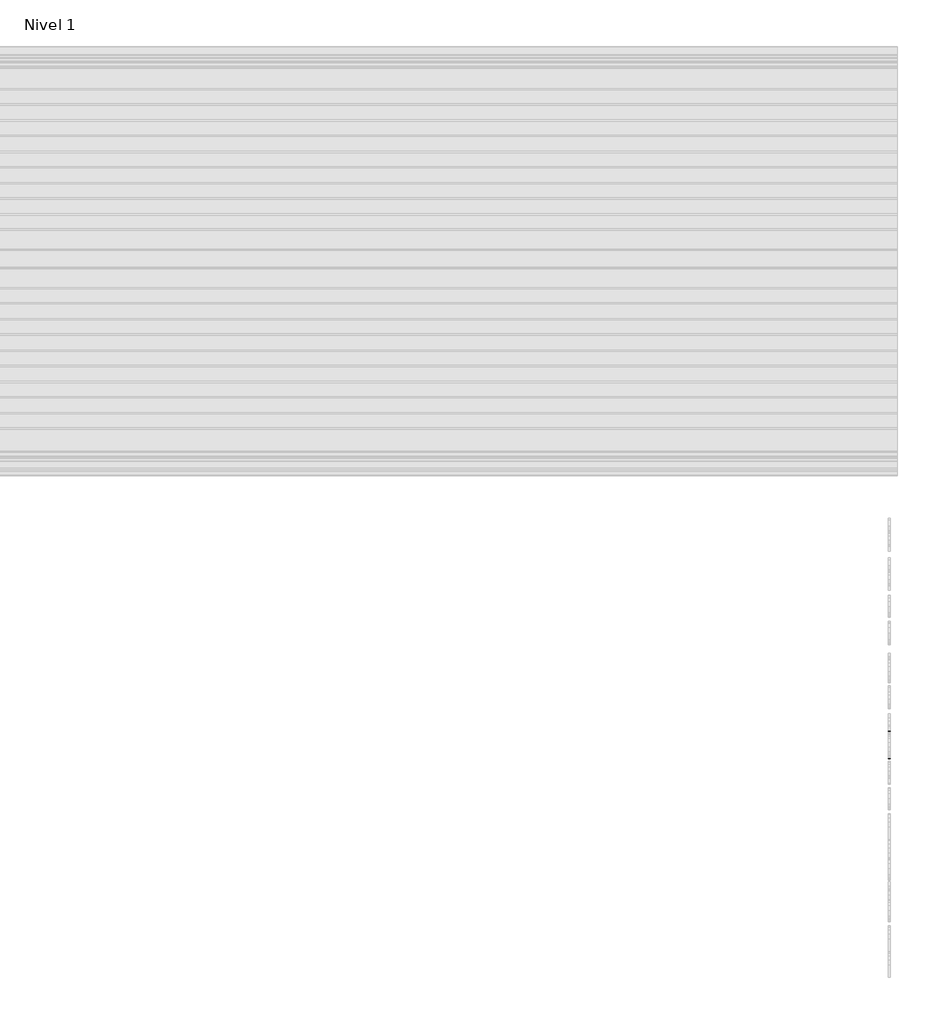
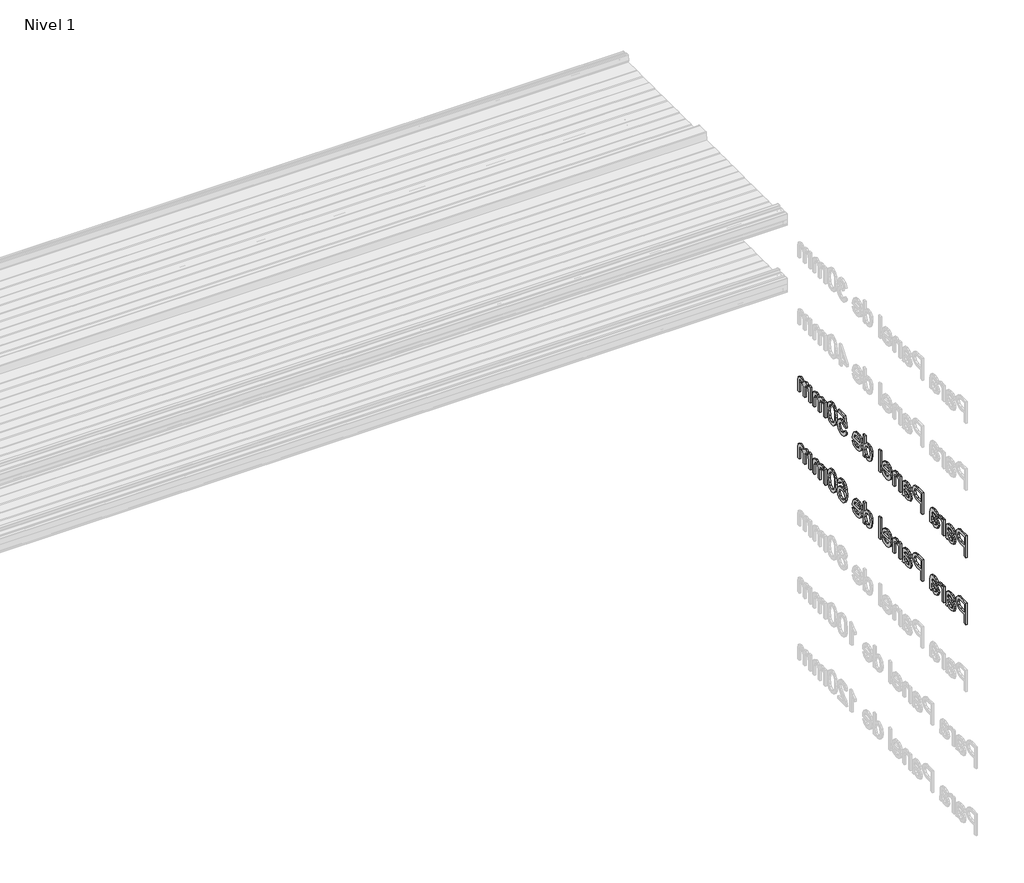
# One storey, part 2 of 3: 2 proxies.
"""IFC4 building model written with IfcOpenShell, lengths in millimetres."""

from ifc_helpers import new_model, si_unit, frame, origin, place, context, project, spatial, polyline, outline, extrude, element, save

model = new_model("IFC4")

# Units and contexts
model_context = context("Model", 3, world=origin())
ifc_project = project(units=[si_unit("LENGTHUNIT", "METRE", prefix="MILLI")], contexts=[model_context])

# Site, building, storey
site = spatial("IfcSite", under=ifc_project)
building = spatial("IfcBuilding", under=site)
storey = spatial("IfcBuildingStorey", under=building, Name="Nivel 1", Elevation=0.0)

# Proxies
placement = place(None, origin())
element("IfcBuildingElementProxy", 1, Name="100mm Arial", ObjectType="100mm Arial", at=placement, inside=storey, context=model_context, shape_type="SweptSolid", body=[
    extrude(outline(polyline([(14155.5279909, -567.141573), (14155.5279909, -486.7765249), (14185.3117173, -486.7765249), (14197.3193856, -487.5417195), (14207.0805212, -491.2990209), (14213.4080915, -499.0686886), (14215.801777, -510.026667), (14214.1855488, -519.4984021), (14209.3368641, -527.3906972), (14200.2697992, -532.7176285), (14185.9984303, -534.4932722), (14165.573622, -534.4932722), (14165.573622, -567.141573), (14155.5279909, -567.141573)]), holes=[polyline([(14165.573622, -524.4476412), (14186.5870415, -524.4476412), (14201.3808028, -520.7590111), (14205.756146, -510.3798337), (14203.176067, -502.0607955), (14196.3972281, -497.508869), (14186.351597, -496.8221559), (14165.573622, -496.8221559), (14165.573622, -524.4476412)])]), frame((9557.0230098, 0.0, 0.0), z_axis=(1.0, 0.0, 0.0), x_axis=(0.0, 1.0, 0.0)), (0.0, 0.0, 1.0), 5.0),
    extrude(outline(polyline([(14266.0299321, -559.6073498), (14256.2884169, -566.4156192), (14245.5266422, -568.3972769), (14230.9388949, -563.6295263), (14225.847408, -551.4452746), (14227.7702046, -543.4990235), (14232.8224507, -537.7306338), (14239.8563544, -534.4344111), (14248.5481797, -532.9236424), (14265.971071, -529.4704567), (14266.0299321, -527.2337342), (14263.2634595, -519.8172332), (14252.1583283, -516.913418), (14241.9949751, -518.8460247), (14237.1487429, -525.7033451), (14227.1031119, -524.4476412), (14231.4490246, -514.6374547), (14240.199711, -508.8886854), (14253.453273, -506.8677869), (14265.6277145, -508.6532409), (14272.5046552, -513.1364961), (14275.5850538, -519.9545758), (14276.0755631, -528.7445029), (14276.0755631, -541.2426806), (14276.5856928, -558.6950024), (14278.5869709, -567.141573), (14268.5413399, -567.141573), (14266.0299321, -559.6073498)]), holes=[polyline([(14266.0299321, -539.5160877), (14249.8235039, -542.5964863), (14241.1807296, -544.2249773), (14237.2664652, -546.8737276), (14235.8930391, -550.7389411), (14238.885146, -556.1737845), (14247.6652629, -558.3516459), (14257.8286162, -555.9481502), (14264.3818208, -550.1307096), (14265.971071, -542.3610418), (14266.0299321, -539.5160877)])]), frame((9557.0230098, 0.0, 0.0), z_axis=(1.0, 0.0, 0.0), x_axis=(0.0, 1.0, 0.0)), (0.0, 0.0, 1.0), 5.0),
    extrude(outline(polyline([(14289.8883058, -567.141573), (14289.8883058, -508.1234908), (14298.6782329, -508.1234908), (14298.6782329, -516.8545568), (14304.9175115, -508.8102039), (14311.1960309, -506.8677869), (14321.2809027, -509.9678059), (14317.9258189, -518.9735571), (14310.8624846, -516.913418), (14305.1823866, -518.8950756), (14301.5624277, -524.3887801), (14299.9339368, -536.1217632), (14299.9339368, -567.141573), (14289.8883058, -567.141573)])), frame((9557.0230098, 0.0, 0.0), z_axis=(1.0, 0.0, 0.0), x_axis=(0.0, 1.0, 0.0)), (0.0, 0.0, 1.0), 5.0),
    extrude(outline(polyline([(14365.2305384, -559.6073498), (14355.4890231, -566.4156192), (14344.7272485, -568.3972769), (14330.1395011, -563.6295263), (14325.0480143, -551.4452746), (14326.9708109, -543.4990235), (14332.023057, -537.7306338), (14339.0569607, -534.4344111), (14347.748786, -532.9236424), (14365.1716773, -529.4704567), (14365.2305384, -527.2337342), (14362.4640658, -519.8172332), (14351.3589346, -516.913418), (14341.1955814, -518.8460247), (14336.3493492, -525.7033451), (14326.3037182, -524.4476412), (14330.6496308, -514.6374547), (14339.4003172, -508.8886854), (14352.6538792, -506.8677869), (14364.8283207, -508.6532409), (14371.7052615, -513.1364961), (14374.7856601, -519.9545758), (14375.2761694, -528.7445029), (14375.2761694, -541.2426806), (14375.7862991, -558.6950024), (14377.7875772, -567.141573), (14367.7419461, -567.141573), (14365.2305384, -559.6073498)]), holes=[polyline([(14365.2305384, -539.5160877), (14349.0241102, -542.5964863), (14340.3813359, -544.2249773), (14336.4670715, -546.8737276), (14335.0936453, -550.7389411), (14338.0857522, -556.1737845), (14346.8658692, -558.3516459), (14357.0292224, -555.9481502), (14363.582427, -550.1307096), (14365.1716773, -542.3610418), (14365.2305384, -539.5160877)])]), frame((9557.0230098, 0.0, 0.0), z_axis=(1.0, 0.0, 0.0), x_axis=(0.0, 1.0, 0.0)), (0.0, 0.0, 1.0), 5.0),
    extrude(outline(polyline([(14421.7372128, -567.141573), (14421.7372128, -486.7765249), (14451.5209392, -486.7765249), (14463.5286075, -487.5417195), (14473.2897431, -491.2990209), (14479.6173134, -499.0686886), (14482.0109989, -510.026667), (14480.3947707, -519.4984021), (14475.546086, -527.3906972), (14466.4790211, -532.7176285), (14452.2076522, -534.4932722), (14431.7828439, -534.4932722), (14431.7828439, -567.141573), (14421.7372128, -567.141573)]), holes=[polyline([(14431.7828439, -524.4476412), (14452.7962634, -524.4476412), (14467.5900247, -520.7590111), (14471.9653679, -510.3798337), (14469.3852889, -502.0607955), (14462.60645, -497.508869), (14452.5608189, -496.8221559), (14431.7828439, -496.8221559), (14431.7828439, -524.4476412)])]), frame((9557.0230098, 0.0, 0.0), z_axis=(1.0, 0.0, 0.0), x_axis=(0.0, 1.0, 0.0)), (0.0, 0.0, 1.0), 5.0),
    extrude(outline(polyline([(14532.239154, -559.6073498), (14522.4976388, -566.4156192), (14511.7358641, -568.3972769), (14497.1481168, -563.6295263), (14492.0566299, -551.4452746), (14493.9794265, -543.4990235), (14499.0316726, -537.7306338), (14506.0655763, -534.4344111), (14514.7574016, -532.9236424), (14532.1802929, -529.4704567), (14532.239154, -527.2337342), (14529.4726814, -519.8172332), (14518.3675502, -516.913418), (14508.204197, -518.8460247), (14503.3579648, -525.7033451), (14493.3123338, -524.4476412), (14497.6582465, -514.6374547), (14506.4089329, -508.8886854), (14519.6624949, -506.8677869), (14531.8369364, -508.6532409), (14538.7138771, -513.1364961), (14541.7942757, -519.9545758), (14542.284785, -528.7445029), (14542.284785, -541.2426806), (14542.7949147, -558.6950024), (14544.7961928, -567.141573), (14534.7505618, -567.141573), (14532.239154, -559.6073498)]), holes=[polyline([(14532.239154, -539.5160877), (14516.0327258, -542.5964863), (14507.3899515, -544.2249773), (14503.4756871, -546.8737276), (14502.102261, -550.7389411), (14505.0943679, -556.1737845), (14513.8744848, -558.3516459), (14524.0378381, -555.9481502), (14530.5910427, -550.1307096), (14532.1802929, -542.3610418), (14532.239154, -539.5160877)])]), frame((9557.0230098, 0.0, 0.0), z_axis=(1.0, 0.0, 0.0), x_axis=(0.0, 1.0, 0.0)), (0.0, 0.0, 1.0), 5.0),
    extrude(outline(polyline([(14556.0975277, -567.141573), (14556.0975277, -508.1234908), (14566.1431587, -508.1234908), (14566.1431587, -516.3640475), (14573.8245347, -509.2418521), (14584.3116241, -506.8677869), (14593.7980745, -508.7807733), (14600.2727976, -513.8035888), (14603.2845249, -521.1906593), (14603.814275, -530.902744), (14603.814275, -567.141573), (14593.768644, -567.141573), (14593.768644, -532.2565497), (14592.611042, -523.3685207), (14588.5201942, -518.6694413), (14581.623633, -516.913418), (14570.7245158, -520.8571129), (14567.288498, -526.5715466), (14566.1431587, -535.8274576), (14566.1431587, -567.141573), (14556.0975277, -567.141573)])), frame((9557.0230098, 0.0, 0.0), z_axis=(1.0, 0.0, 0.0), x_axis=(0.0, 1.0, 0.0)), (0.0, 0.0, 1.0), 5.0),
    extrude(outline(polyline([(14658.9475233, -549.5617188), (14668.7969506, -550.8174226), (14659.5851855, -563.7864892), (14642.4271692, -568.3972769), (14630.6402301, -566.4082616), (14621.5707126, -560.4412156), (14615.7876077, -550.8836414), (14613.859906, -538.1230413), (14615.807228, -524.9332455), (14621.6491941, -515.0691029), (14630.5960842, -508.9181159), (14641.8581784, -506.8677869), (14652.7695584, -508.9132108), (14661.4883616, -515.0494825), (14667.2052478, -524.8940047), (14669.1108766, -538.0641801), (14669.0520155, -540.7717916), (14623.905537, -540.7717916), (14629.6837369, -553.8193397), (14642.6233729, -558.3516459), (14652.4728002, -556.252266), (14658.9475233, -549.5617188)]), holes=[polyline([(14623.905537, -530.7261606), (14659.0652456, -530.7261606), (14655.0430691, -521.6223075), (14641.8189376, -516.913418), (14629.4482924, -520.6707194), (14623.905537, -530.7261606)])]), frame((9557.0230098, 0.0, 0.0), z_axis=(1.0, 0.0, 0.0), x_axis=(0.0, 1.0, 0.0)), (0.0, 0.0, 1.0), 5.0),
    extrude(outline(polyline([(9562.0230098, 14689.2021386), (9562.0230098, 14679.1565076), (9557.0230098, 14679.1565076), (9557.0230098, 14689.2021386), (9562.0230098, 14689.2021386)])), frame((0.0, 0.0, -567.141573), z_axis=(0.0, 0.0, 1.0), x_axis=(1.0, 0.0, 0.0)), (0.0, 0.0, 1.0), 80.3650481),
    extrude(outline(polyline([(14772.0785945, -567.141573), (14772.0785945, -557.6649328), (14765.4321931, -565.7141909), (14756.2449534, -568.3972769), (14743.8056369, -564.512443), (14735.0157097, -553.6721869), (14731.8960704, -537.691393), (14734.7704551, -521.700789), (14743.3837989, -510.6937597), (14756.2057127, -506.8677869), (14765.4665288, -509.604829), (14772.0785945, -516.7172142), (14772.0785945, -486.7765249), (14782.1242255, -486.7765249), (14782.1242255, -567.141573), (14772.0785945, -567.141573)]), holes=[polyline([(14741.9417014, -537.6521523), (14746.4740076, -553.201298), (14757.1671109, -558.3516459), (14767.7326819, -553.4367424), (14772.0785945, -538.4173468), (14767.6542004, -522.1128168), (14756.7550831, -516.913418), (14746.179702, -521.9068029), (14741.9417014, -537.6521523)])]), frame((9557.0230098, 0.0, 0.0), z_axis=(1.0, 0.0, 0.0), x_axis=(0.0, 1.0, 0.0)), (0.0, 0.0, 1.0), 5.0),
    extrude(outline(polyline([(14838.5131777, -549.5617188), (14848.362605, -550.8174226), (14839.1508398, -563.7864892), (14821.9928236, -568.3972769), (14810.2058845, -566.4082616), (14801.136367, -560.4412156), (14795.353262, -550.8836414), (14793.4255604, -538.1230413), (14795.3728824, -524.9332455), (14801.2148485, -515.0691029), (14810.1617386, -508.9181159), (14821.4238328, -506.8677869), (14832.3352128, -508.9132108), (14841.054016, -515.0494825), (14846.7709022, -524.8940047), (14848.676531, -538.0641801), (14848.6176699, -540.7717916), (14803.4711914, -540.7717916), (14809.2493913, -553.8193397), (14822.1890273, -558.3516459), (14832.0384546, -556.252266), (14838.5131777, -549.5617188)]), holes=[polyline([(14803.4711914, -530.7261606), (14838.6309, -530.7261606), (14834.6087235, -521.6223075), (14821.384592, -516.913418), (14809.0139468, -520.6707194), (14803.4711914, -530.7261606)])]), frame((9557.0230098, 0.0, 0.0), z_axis=(1.0, 0.0, 0.0), x_axis=(0.0, 1.0, 0.0)), (0.0, 0.0, 1.0), 5.0),
    extrude(outline(polyline([(14887.6033512, -545.7946071), (14897.6489822, -544.5389032), (14902.7110384, -554.88865), (14913.207938, -558.3516459), (14925.8042175, -553.5348443), (14930.297283, -540.7521712), (14926.0887129, -528.8229844), (14913.364901, -524.4476412), (14904.5455433, -526.1938544), (14898.9046861, -530.7261606), (14888.859055, -529.4704567), (14897.6489822, -488.0322288), (14936.5758024, -488.0322288), (14936.5758024, -498.0778598), (14905.7718166, -498.0778598), (14901.4749549, -520.2096406), (14916.1706144, -514.4020102), (14925.5565103, -516.2021794), (14933.348251, -521.6026871), (14938.5942482, -529.8334336), (14940.342914, -540.1243193), (14938.768379, -550.1699503), (14934.0447742, -558.7636737), (14924.9997822, -565.9888761), (14913.1686973, -568.3972769), (14903.3021022, -566.84972), (14895.4416902, -562.2070492), (14890.0534452, -555.0088248), (14887.6033512, -545.7946071)])), frame((9557.0230098, 0.0, 0.0), z_axis=(1.0, 0.0, 0.0), x_axis=(0.0, 1.0, 0.0)), (0.0, 0.0, 1.0), 5.0),
    extrude(outline(polyline([(14949.1328411, -527.6065213), (14952.0857073, -504.4839116), (14960.856014, -491.1518681), (14975.5026225, -486.7765249), (14987.2356056, -489.3664142), (14995.3388197, -496.8319661), (15000.0477093, -508.7219122), (15001.872404, -527.6065213), (14998.9489684, -550.6310291), (14990.2080922, -563.9925032), (14975.5026225, -568.3972769), (14965.0645841, -566.4842905), (14957.1379533, -560.7453314), (14951.1341192, -547.153318), (14949.1328411, -527.6065213)]), holes=[polyline([(14959.1784721, -527.5869009), (14960.3556945, -543.3886589), (14963.8873617, -552.5342053), (14975.5026225, -558.3516459), (14987.1178834, -552.5145849), (14990.6495506, -543.3641334), (14991.8267729, -527.5869009), (14990.6887913, -512.1407622), (14987.2748464, -502.924092), (14982.0263966, -498.3476399), (14975.3849003, -496.8221559), (14964.0443247, -502.1981381), (14960.3949353, -511.9887043), (14959.1784721, -527.5869009)])]), frame((9557.0230098, 0.0, 0.0), z_axis=(1.0, 0.0, 0.0), x_axis=(0.0, 1.0, 0.0)), (0.0, 0.0, 1.0), 5.0),
    extrude(outline(polyline([(15013.1737388, -567.141573), (15013.1737388, -508.1234908), (15023.2193699, -508.1234908), (15023.2193699, -517.8355755), (15030.1257412, -509.8795142), (15039.9555481, -506.8677869), (15050.0207995, -509.9383753), (15055.5537447, -518.5419089), (15063.3920837, -509.7863174), (15073.290562, -506.8677869), (15086.4264017, -511.7238293), (15091.0273792, -526.6843637), (15091.0273792, -567.141573), (15080.9817482, -567.141573), (15080.9817482, -531.0008458), (15080.0497805, -522.6131363), (15076.6750763, -518.4830478), (15070.9361172, -516.913418), (15061.0572593, -520.9355944), (15057.1233745, -533.8261795), (15057.1233745, -567.141573), (15047.0777435, -567.141573), (15047.0777435, -529.8824846), (15044.7527293, -520.1507795), (15037.1302144, -516.913418), (15029.694093, -519.071659), (15024.749759, -525.3894191), (15023.2193699, -537.3774671), (15023.2193699, -567.141573), (15013.1737388, -567.141573)])), frame((9557.0230098, 0.0, 0.0), z_axis=(1.0, 0.0, 0.0), x_axis=(0.0, 1.0, 0.0)), (0.0, 0.0, 1.0), 5.0),
    extrude(outline(polyline([(15106.0958257, -567.141573), (15106.0958257, -508.1234908), (15116.1414568, -508.1234908), (15116.1414568, -517.8355755), (15123.0478281, -509.8795142), (15132.877635, -506.8677869), (15142.9428864, -509.9383753), (15148.4758316, -518.5419089), (15156.3141706, -509.7863174), (15166.2126488, -506.8677869), (15179.3484886, -511.7238293), (15183.9494661, -526.6843637), (15183.9494661, -567.141573), (15173.9038351, -567.141573), (15173.9038351, -531.0008458), (15172.9718674, -522.6131363), (15169.5971632, -518.4830478), (15163.8582041, -516.913418), (15153.9793462, -520.9355944), (15150.0454614, -533.8261795), (15150.0454614, -567.141573), (15139.9998304, -567.141573), (15139.9998304, -529.8824846), (15137.6748162, -520.1507795), (15130.0523013, -516.913418), (15122.6161799, -519.071659), (15117.6718458, -525.3894191), (15116.1414568, -537.3774671), (15116.1414568, -567.141573), (15106.0958257, -567.141573)])), frame((9557.0230098, 0.0, 0.0), z_axis=(1.0, 0.0, 0.0), x_axis=(0.0, 1.0, 0.0)), (0.0, 0.0, 1.0), 5.0),
])
element("IfcBuildingElementProxy", 2, Name="100mm Arial", ObjectType="100mm Arial", at=placement, inside=storey, context=model_context, shape_type="SweptSolid", body=[
    extrude(outline(polyline([(14155.5279909, -817.141573), (14155.5279909, -736.7765249), (14185.3117173, -736.7765249), (14197.3193856, -737.5417195), (14207.0805212, -741.2990209), (14213.4080915, -749.0686886), (14215.801777, -760.026667), (14214.1855488, -769.4984021), (14209.3368641, -777.3906972), (14200.2697992, -782.7176285), (14185.9984303, -784.4932722), (14165.573622, -784.4932722), (14165.573622, -817.141573), (14155.5279909, -817.141573)]), holes=[polyline([(14165.573622, -774.4476412), (14186.5870415, -774.4476412), (14201.3808028, -770.7590111), (14205.756146, -760.3798337), (14203.176067, -752.0607955), (14196.3972281, -747.508869), (14186.351597, -746.8221559), (14165.573622, -746.8221559), (14165.573622, -774.4476412)])]), frame((9557.0230098, 0.0, 0.0), z_axis=(1.0, 0.0, 0.0), x_axis=(0.0, 1.0, 0.0)), (0.0, 0.0, 1.0), 5.0),
    extrude(outline(polyline([(14266.0299321, -809.6073498), (14256.2884169, -816.4156192), (14245.5266422, -818.3972769), (14230.9388949, -813.6295263), (14225.847408, -801.4452746), (14227.7702046, -793.4990235), (14232.8224507, -787.7306338), (14239.8563544, -784.4344111), (14248.5481797, -782.9236424), (14265.971071, -779.4704567), (14266.0299321, -777.2337342), (14263.2634595, -769.8172332), (14252.1583283, -766.913418), (14241.9949751, -768.8460247), (14237.1487429, -775.7033451), (14227.1031119, -774.4476412), (14231.4490246, -764.6374547), (14240.199711, -758.8886854), (14253.453273, -756.8677869), (14265.6277145, -758.6532409), (14272.5046552, -763.1364961), (14275.5850538, -769.9545758), (14276.0755631, -778.7445029), (14276.0755631, -791.2426806), (14276.5856928, -808.6950024), (14278.5869709, -817.141573), (14268.5413399, -817.141573), (14266.0299321, -809.6073498)]), holes=[polyline([(14266.0299321, -789.5160877), (14249.8235039, -792.5964863), (14241.1807296, -794.2249773), (14237.2664652, -796.8737276), (14235.8930391, -800.7389411), (14238.885146, -806.1737845), (14247.6652629, -808.3516459), (14257.8286162, -805.9481502), (14264.3818208, -800.1307096), (14265.971071, -792.3610418), (14266.0299321, -789.5160877)])]), frame((9557.0230098, 0.0, 0.0), z_axis=(1.0, 0.0, 0.0), x_axis=(0.0, 1.0, 0.0)), (0.0, 0.0, 1.0), 5.0),
    extrude(outline(polyline([(14289.8883058, -817.141573), (14289.8883058, -758.1234908), (14298.6782329, -758.1234908), (14298.6782329, -766.8545568), (14304.9175115, -758.8102039), (14311.1960309, -756.8677869), (14321.2809027, -759.9678059), (14317.9258189, -768.9735571), (14310.8624846, -766.913418), (14305.1823866, -768.8950756), (14301.5624277, -774.3887801), (14299.9339368, -786.1217632), (14299.9339368, -817.141573), (14289.8883058, -817.141573)])), frame((9557.0230098, 0.0, 0.0), z_axis=(1.0, 0.0, 0.0), x_axis=(0.0, 1.0, 0.0)), (0.0, 0.0, 1.0), 5.0),
    extrude(outline(polyline([(14365.2305384, -809.6073498), (14355.4890231, -816.4156192), (14344.7272485, -818.3972769), (14330.1395011, -813.6295263), (14325.0480143, -801.4452746), (14326.9708109, -793.4990235), (14332.023057, -787.7306338), (14339.0569607, -784.4344111), (14347.748786, -782.9236424), (14365.1716773, -779.4704567), (14365.2305384, -777.2337342), (14362.4640658, -769.8172332), (14351.3589346, -766.913418), (14341.1955814, -768.8460247), (14336.3493492, -775.7033451), (14326.3037182, -774.4476412), (14330.6496308, -764.6374547), (14339.4003172, -758.8886854), (14352.6538792, -756.8677869), (14364.8283207, -758.6532409), (14371.7052615, -763.1364961), (14374.7856601, -769.9545758), (14375.2761694, -778.7445029), (14375.2761694, -791.2426806), (14375.7862991, -808.6950024), (14377.7875772, -817.141573), (14367.7419461, -817.141573), (14365.2305384, -809.6073498)]), holes=[polyline([(14365.2305384, -789.5160877), (14349.0241102, -792.5964863), (14340.3813359, -794.2249773), (14336.4670715, -796.8737276), (14335.0936453, -800.7389411), (14338.0857522, -806.1737845), (14346.8658692, -808.3516459), (14357.0292224, -805.9481502), (14363.582427, -800.1307096), (14365.1716773, -792.3610418), (14365.2305384, -789.5160877)])]), frame((9557.0230098, 0.0, 0.0), z_axis=(1.0, 0.0, 0.0), x_axis=(0.0, 1.0, 0.0)), (0.0, 0.0, 1.0), 5.0),
    extrude(outline(polyline([(14421.7372128, -817.141573), (14421.7372128, -736.7765249), (14451.5209392, -736.7765249), (14463.5286075, -737.5417195), (14473.2897431, -741.2990209), (14479.6173134, -749.0686886), (14482.0109989, -760.026667), (14480.3947707, -769.4984021), (14475.546086, -777.3906972), (14466.4790211, -782.7176285), (14452.2076522, -784.4932722), (14431.7828439, -784.4932722), (14431.7828439, -817.141573), (14421.7372128, -817.141573)]), holes=[polyline([(14431.7828439, -774.4476412), (14452.7962634, -774.4476412), (14467.5900247, -770.7590111), (14471.9653679, -760.3798337), (14469.3852889, -752.0607955), (14462.60645, -747.508869), (14452.5608189, -746.8221559), (14431.7828439, -746.8221559), (14431.7828439, -774.4476412)])]), frame((9557.0230098, 0.0, 0.0), z_axis=(1.0, 0.0, 0.0), x_axis=(0.0, 1.0, 0.0)), (0.0, 0.0, 1.0), 5.0),
    extrude(outline(polyline([(14532.239154, -809.6073498), (14522.4976388, -816.4156192), (14511.7358641, -818.3972769), (14497.1481168, -813.6295263), (14492.0566299, -801.4452746), (14493.9794265, -793.4990235), (14499.0316726, -787.7306338), (14506.0655763, -784.4344111), (14514.7574016, -782.9236424), (14532.1802929, -779.4704567), (14532.239154, -777.2337342), (14529.4726814, -769.8172332), (14518.3675502, -766.913418), (14508.204197, -768.8460247), (14503.3579648, -775.7033451), (14493.3123338, -774.4476412), (14497.6582465, -764.6374547), (14506.4089329, -758.8886854), (14519.6624949, -756.8677869), (14531.8369364, -758.6532409), (14538.7138771, -763.1364961), (14541.7942757, -769.9545758), (14542.284785, -778.7445029), (14542.284785, -791.2426806), (14542.7949147, -808.6950024), (14544.7961928, -817.141573), (14534.7505618, -817.141573), (14532.239154, -809.6073498)]), holes=[polyline([(14532.239154, -789.5160877), (14516.0327258, -792.5964863), (14507.3899515, -794.2249773), (14503.4756871, -796.8737276), (14502.102261, -800.7389411), (14505.0943679, -806.1737845), (14513.8744848, -808.3516459), (14524.0378381, -805.9481502), (14530.5910427, -800.1307096), (14532.1802929, -792.3610418), (14532.239154, -789.5160877)])]), frame((9557.0230098, 0.0, 0.0), z_axis=(1.0, 0.0, 0.0), x_axis=(0.0, 1.0, 0.0)), (0.0, 0.0, 1.0), 5.0),
    extrude(outline(polyline([(14556.0975277, -817.141573), (14556.0975277, -758.1234908), (14566.1431587, -758.1234908), (14566.1431587, -766.3640475), (14573.8245347, -759.2418521), (14584.3116241, -756.8677869), (14593.7980745, -758.7807733), (14600.2727976, -763.8035888), (14603.2845249, -771.1906593), (14603.814275, -780.902744), (14603.814275, -817.141573), (14593.768644, -817.141573), (14593.768644, -782.2565497), (14592.611042, -773.3685207), (14588.5201942, -768.6694413), (14581.623633, -766.913418), (14570.7245158, -770.8571129), (14567.288498, -776.5715466), (14566.1431587, -785.8274576), (14566.1431587, -817.141573), (14556.0975277, -817.141573)])), frame((9557.0230098, 0.0, 0.0), z_axis=(1.0, 0.0, 0.0), x_axis=(0.0, 1.0, 0.0)), (0.0, 0.0, 1.0), 5.0),
    extrude(outline(polyline([(14658.9475233, -799.5617188), (14668.7969506, -800.8174226), (14659.5851855, -813.7864892), (14642.4271692, -818.3972769), (14630.6402301, -816.4082616), (14621.5707126, -810.4412156), (14615.7876077, -800.8836414), (14613.859906, -788.1230413), (14615.807228, -774.9332455), (14621.6491941, -765.0691029), (14630.5960842, -758.9181159), (14641.8581784, -756.8677869), (14652.7695584, -758.9132108), (14661.4883616, -765.0494825), (14667.2052478, -774.8940047), (14669.1108766, -788.0641801), (14669.0520155, -790.7717916), (14623.905537, -790.7717916), (14629.6837369, -803.8193397), (14642.6233729, -808.3516459), (14652.4728002, -806.252266), (14658.9475233, -799.5617188)]), holes=[polyline([(14623.905537, -780.7261606), (14659.0652456, -780.7261606), (14655.0430691, -771.6223075), (14641.8189376, -766.913418), (14629.4482924, -770.6707194), (14623.905537, -780.7261606)])]), frame((9557.0230098, 0.0, 0.0), z_axis=(1.0, 0.0, 0.0), x_axis=(0.0, 1.0, 0.0)), (0.0, 0.0, 1.0), 5.0),
    extrude(outline(polyline([(9562.0230098, 14689.2021386), (9562.0230098, 14679.1565076), (9557.0230098, 14679.1565076), (9557.0230098, 14689.2021386), (9562.0230098, 14689.2021386)])), frame((0.0, 0.0, -817.141573), z_axis=(0.0, 0.0, 1.0), x_axis=(1.0, 0.0, 0.0)), (0.0, 0.0, 1.0), 80.3650481),
    extrude(outline(polyline([(14772.0785945, -817.141573), (14772.0785945, -807.6649328), (14765.4321931, -815.7141909), (14756.2449534, -818.3972769), (14743.8056369, -814.512443), (14735.0157097, -803.6721869), (14731.8960704, -787.691393), (14734.7704551, -771.700789), (14743.3837989, -760.6937597), (14756.2057127, -756.8677869), (14765.4665288, -759.604829), (14772.0785945, -766.7172142), (14772.0785945, -736.7765249), (14782.1242255, -736.7765249), (14782.1242255, -817.141573), (14772.0785945, -817.141573)]), holes=[polyline([(14741.9417014, -787.6521523), (14746.4740076, -803.201298), (14757.1671109, -808.3516459), (14767.7326819, -803.4367424), (14772.0785945, -788.4173468), (14767.6542004, -772.1128168), (14756.7550831, -766.913418), (14746.179702, -771.9068029), (14741.9417014, -787.6521523)])]), frame((9557.0230098, 0.0, 0.0), z_axis=(1.0, 0.0, 0.0), x_axis=(0.0, 1.0, 0.0)), (0.0, 0.0, 1.0), 5.0),
    extrude(outline(polyline([(14838.5131777, -799.5617188), (14848.362605, -800.8174226), (14839.1508398, -813.7864892), (14821.9928236, -818.3972769), (14810.2058845, -816.4082616), (14801.136367, -810.4412156), (14795.353262, -800.8836414), (14793.4255604, -788.1230413), (14795.3728824, -774.9332455), (14801.2148485, -765.0691029), (14810.1617386, -758.9181159), (14821.4238328, -756.8677869), (14832.3352128, -758.9132108), (14841.054016, -765.0494825), (14846.7709022, -774.8940047), (14848.676531, -788.0641801), (14848.6176699, -790.7717916), (14803.4711914, -790.7717916), (14809.2493913, -803.8193397), (14822.1890273, -808.3516459), (14832.0384546, -806.252266), (14838.5131777, -799.5617188)]), holes=[polyline([(14803.4711914, -780.7261606), (14838.6309, -780.7261606), (14834.6087235, -771.6223075), (14821.384592, -766.913418), (14809.0139468, -770.6707194), (14803.4711914, -780.7261606)])]), frame((9557.0230098, 0.0, 0.0), z_axis=(1.0, 0.0, 0.0), x_axis=(0.0, 1.0, 0.0)), (0.0, 0.0, 1.0), 5.0),
    extrude(outline(polyline([(14939.0872101, -758.1234908), (14929.0415791, -759.3791947), (14925.2352267, -751.0012954), (14915.1699753, -746.8221559), (14906.105363, -749.2550822), (14899.2480426, -758.3883659), (14896.3932783, -776.2919563), (14905.2518767, -768.2770339), (14916.2294755, -765.6577141), (14925.5099119, -767.4480731), (14933.2992001, -772.8191503), (14938.5819855, -781.0253713), (14940.342914, -791.3211621), (14937.0270709, -805.1829556), (14927.9035975, -814.9931422), (14914.7383271, -818.3972769), (14903.3413429, -816.140934), (14894.2644678, -809.3719053), (14888.3268524, -797.4230981), (14886.3476473, -779.6274197), (14888.5451291, -759.6195443), (14895.1375744, -745.9392391), (14904.1384206, -739.0672035), (14915.7978273, -736.7765249), (14924.6122799, -738.1940969), (14931.6707091, -742.4468127), (14939.0872101, -758.1234908)]), holes=[polyline([(14896.3932783, -791.1641991), (14898.7182925, -799.8658345), (14904.89871, -806.1835947), (14913.9535122, -808.3516459), (14925.7944074, -803.8585805), (14930.297283, -791.6547084), (14925.8532685, -779.9707762), (14913.5414844, -775.7033451), (14901.3866632, -779.9707762), (14896.3932783, -791.1641991)])]), frame((9557.0230098, 0.0, 0.0), z_axis=(1.0, 0.0, 0.0), x_axis=(0.0, 1.0, 0.0)), (0.0, 0.0, 1.0), 5.0),
    extrude(outline(polyline([(14949.1328411, -777.6065213), (14952.0857073, -754.4839116), (14960.856014, -741.1518681), (14975.5026225, -736.7765249), (14987.2356056, -739.3664142), (14995.3388197, -746.8319661), (15000.0477093, -758.7219122), (15001.872404, -777.6065213), (14998.9489684, -800.6310291), (14990.2080922, -813.9925032), (14975.5026225, -818.3972769), (14965.0645841, -816.4842905), (14957.1379533, -810.7453314), (14951.1341192, -797.153318), (14949.1328411, -777.6065213)]), holes=[polyline([(14959.1784721, -777.5869009), (14960.3556945, -793.3886589), (14963.8873617, -802.5342053), (14975.5026225, -808.3516459), (14987.1178834, -802.5145849), (14990.6495506, -793.3641334), (14991.8267729, -777.5869009), (14990.6887913, -762.1407622), (14987.2748464, -752.924092), (14982.0263966, -748.3476399), (14975.3849003, -746.8221559), (14964.0443247, -752.1981381), (14960.3949353, -761.9887043), (14959.1784721, -777.5869009)])]), frame((9557.0230098, 0.0, 0.0), z_axis=(1.0, 0.0, 0.0), x_axis=(0.0, 1.0, 0.0)), (0.0, 0.0, 1.0), 5.0),
    extrude(outline(polyline([(15013.1737388, -817.141573), (15013.1737388, -758.1234908), (15023.2193699, -758.1234908), (15023.2193699, -767.8355755), (15030.1257412, -759.8795142), (15039.9555481, -756.8677869), (15050.0207995, -759.9383753), (15055.5537447, -768.5419089), (15063.3920837, -759.7863174), (15073.290562, -756.8677869), (15086.4264017, -761.7238293), (15091.0273792, -776.6843637), (15091.0273792, -817.141573), (15080.9817482, -817.141573), (15080.9817482, -781.0008458), (15080.0497805, -772.6131363), (15076.6750763, -768.4830478), (15070.9361172, -766.913418), (15061.0572593, -770.9355944), (15057.1233745, -783.8261795), (15057.1233745, -817.141573), (15047.0777435, -817.141573), (15047.0777435, -779.8824846), (15044.7527293, -770.1507795), (15037.1302144, -766.913418), (15029.694093, -769.071659), (15024.749759, -775.3894191), (15023.2193699, -787.3774671), (15023.2193699, -817.141573), (15013.1737388, -817.141573)])), frame((9557.0230098, 0.0, 0.0), z_axis=(1.0, 0.0, 0.0), x_axis=(0.0, 1.0, 0.0)), (0.0, 0.0, 1.0), 5.0),
    extrude(outline(polyline([(15106.0958257, -817.141573), (15106.0958257, -758.1234908), (15116.1414568, -758.1234908), (15116.1414568, -767.8355755), (15123.0478281, -759.8795142), (15132.877635, -756.8677869), (15142.9428864, -759.9383753), (15148.4758316, -768.5419089), (15156.3141706, -759.7863174), (15166.2126488, -756.8677869), (15179.3484886, -761.7238293), (15183.9494661, -776.6843637), (15183.9494661, -817.141573), (15173.9038351, -817.141573), (15173.9038351, -781.0008458), (15172.9718674, -772.6131363), (15169.5971632, -768.4830478), (15163.8582041, -766.913418), (15153.9793462, -770.9355944), (15150.0454614, -783.8261795), (15150.0454614, -817.141573), (15139.9998304, -817.141573), (15139.9998304, -779.8824846), (15137.6748162, -770.1507795), (15130.0523013, -766.913418), (15122.6161799, -769.071659), (15117.6718458, -775.3894191), (15116.1414568, -787.3774671), (15116.1414568, -817.141573), (15106.0958257, -817.141573)])), frame((9557.0230098, 0.0, 0.0), z_axis=(1.0, 0.0, 0.0), x_axis=(0.0, 1.0, 0.0)), (0.0, 0.0, 1.0), 5.0),
])

save(model, "model.ifc")
